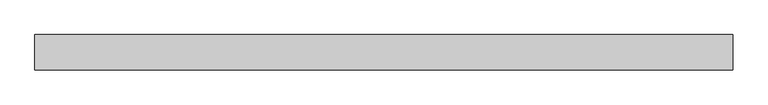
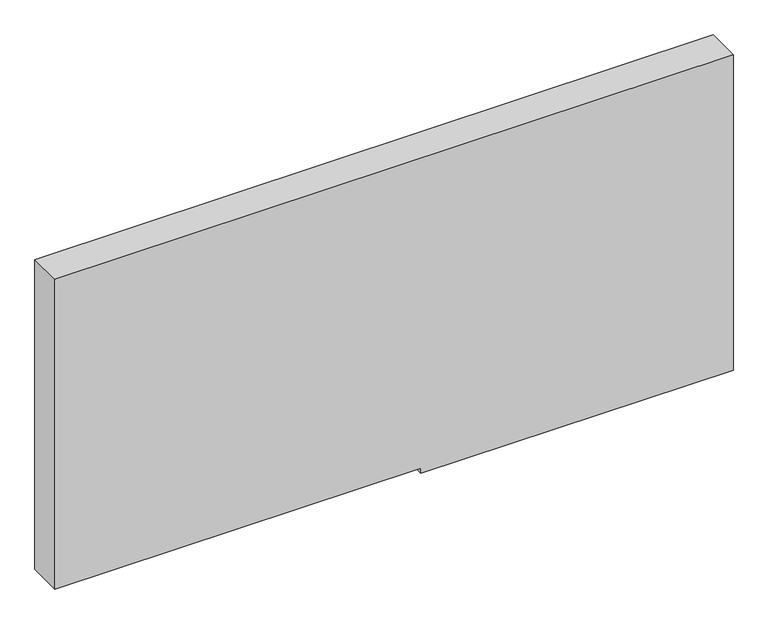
"""IFC4 building model written with IfcOpenShell, lengths in millimetres: plate geometry, Системная панель : Алюкобонд серый."""

import ifcopenshell
import ifcopenshell.guid

model = None  # the IFC model being written
_history = None  # IfcOwnerHistory: only IFC2X3 demands one
_inside = {}  # id of a spatial element -> (the spatial element, [elements in it])
_under = {}  # id of a project, library or spatial element -> (it, [spatial elements below it])
_declared = {}  # id of a project -> (the project, [libraries it declares])
_typed = {}  # id of a type object -> (the type object, [elements of that type])
_made_of = {}  # id of a material, layer set ... -> (it, [elements and type objects made of it])


def new_model(schema):
    """Start an empty IFC model of exactly this schema.

    Asked for "IFC4X3", IfcOpenShell would pick the latest addendum, in which some entities
    have other attributes; the version numbers below select the first issue.
    IFC2X3 requires an IfcOwnerHistory on every rooted entity: one is made here for all.
    """
    global model, _history
    if schema == "IFC4X3":
        model = ifcopenshell.file(schema_version=(4, 3, 0, 0))
    else:
        model = ifcopenshell.file(schema=schema)
    _inside.clear()
    _under.clear()
    _declared.clear()
    _typed.clear()
    _made_of.clear()
    _history = None
    if model.schema == "IFC2X3":
        org = make("IfcOrganization", Name="unknown")
        user = make(
            "IfcPersonAndOrganization",
            ThePerson=make("IfcPerson", FamilyName="unknown"),
            TheOrganization=org,
        )
        app = make(
            "IfcApplication",
            ApplicationDeveloper=org,
            Version="unknown",
            ApplicationFullName="unknown",
            ApplicationIdentifier="unknown",
        )
        _history = make(
            "IfcOwnerHistory",
            OwningUser=user,
            OwningApplication=app,
            ChangeAction="ADDED",
            CreationDate=0,
        )
    return model


def make(cls, **values):
    """One entity of the class cls with the attributes given. An attribute that is None is left unset."""
    return model.create_entity(
        cls, **{name: value for name, value in values.items() if value is not None}
    )


def rooted(cls, **values):
    """An entity with a GlobalId (a new one), such as an element, a storey or a relation."""
    return make(cls, GlobalId=ifcopenshell.guid.new(), OwnerHistory=_history, **values)


def si_unit(unit_type, name, prefix=None):
    """IfcSIUnit, for example si_unit("LENGTHUNIT", "METRE", prefix="MILLI")."""
    return make("IfcSIUnit", UnitType=unit_type, Prefix=prefix, Name=name)


def assignment(units):
    """IfcUnitAssignment: the units of a project."""
    return None if units is None else make("IfcUnitAssignment", Units=units)


def point(xyz):
    """IfcCartesianPoint."""
    return None if xyz is None else make("IfcCartesianPoint", Coordinates=xyz)


def direction(xyz):
    """IfcDirection."""
    return None if xyz is None else make("IfcDirection", DirectionRatios=xyz)


def frame(location, z_axis=None, x_axis=None):
    """IfcAxis2Placement3D, a coordinate frame: its origin and axes. An axis left out is left unset."""
    return make(
        "IfcAxis2Placement3D",
        Location=point(location),
        Axis=direction(z_axis),
        RefDirection=direction(x_axis),
    )


def origin():
    """The frame at (0, 0, 0) with its axes left unset."""
    return frame((0.0, 0.0, 0.0))


def place(relative_to, where):
    """IfcLocalPlacement: puts the frame where relative to a parent placement (None: the world)."""
    return make(
        "IfcLocalPlacement", PlacementRelTo=relative_to, RelativePlacement=where
    )


def context(
    kind, dimensions, precision=None, world=None, true_north=None, identifier=None
):
    """IfcGeometricRepresentationContext, for example the 3D "Model" context."""
    return make(
        "IfcGeometricRepresentationContext",
        ContextIdentifier=identifier,
        ContextType=kind,
        CoordinateSpaceDimension=dimensions,
        Precision=precision,
        WorldCoordinateSystem=world,
        TrueNorth=true_north,
    )


def project(units=None, contexts=None):
    """IfcProject with its units and contexts."""
    return rooted(
        "IfcProject",
        Name="project",
        RepresentationContexts=contexts,
        UnitsInContext=assignment(units),
    )


def spatial(cls, under=None, at=None, **own):
    """A site, building, storey or space (cls), placed at a placement, below another one or the project."""
    s = rooted(cls, ObjectPlacement=at, **own)
    if under is not None:
        _under.setdefault(under.id(), (under, []))[1].append(s)
    return s


def polyline(points):
    """IfcPolyline through the points."""
    return make("IfcPolyline", Points=[point(p) for p in points])


def outline(outer, holes=None, kind="AREA"):
    """IfcArbitraryClosedProfileDef: a profile drawn as a closed curve; with holes, ...WithVoids."""
    if holes is None:
        return make("IfcArbitraryClosedProfileDef", ProfileType=kind, OuterCurve=outer)
    return make(
        "IfcArbitraryProfileDefWithVoids",
        ProfileType=kind,
        OuterCurve=outer,
        InnerCurves=holes,
    )


def extrude(swept, where, along, depth):
    """IfcExtrudedAreaSolid: the profile swept, set in the frame where, extruded along a direction by depth."""
    return make(
        "IfcExtrudedAreaSolid",
        SweptArea=swept,
        Position=where,
        ExtrudedDirection=direction(along),
        Depth=depth,
    )


def shape(context_of_items, identifier, shape_type, items):
    """IfcShapeRepresentation: the items that make up one representation, for example the "Body"."""
    return make(
        "IfcShapeRepresentation",
        ContextOfItems=context_of_items,
        RepresentationIdentifier=identifier,
        RepresentationType=shape_type,
        Items=items,
    )


def source(mapping_origin, context_of_items, identifier, shape_type, items):
    """IfcRepresentationMap: a shape defined once, which mapped items show again and again."""
    return make(
        "IfcRepresentationMap",
        MappingOrigin=mapping_origin,
        MappedRepresentation=shape(context_of_items, identifier, shape_type, items),
    )


def transform(
    local_origin,
    x_axis=None,
    y_axis=None,
    z_axis=None,
    scale=None,
    scale2=None,
    scale3=None,
    uniform=True,
):
    """IfcCartesianTransformationOperator3D, or its non-uniform kind. x_axis, y_axis, z_axis: its Axis1, 2, 3."""
    if uniform:
        return make(
            "IfcCartesianTransformationOperator3D",
            Axis1=direction(x_axis),
            Axis2=direction(y_axis),
            LocalOrigin=point(local_origin),
            Scale=scale,
            Axis3=direction(z_axis),
        )
    return make(
        "IfcCartesianTransformationOperator3DnonUniform",
        Axis1=direction(x_axis),
        Axis2=direction(y_axis),
        LocalOrigin=point(local_origin),
        Scale=scale,
        Axis3=direction(z_axis),
        Scale2=scale2,
        Scale3=scale3,
    )


def mapped(mapping_source, mapping_target):
    """IfcMappedItem: shows the shape of a source again, moved by a transform."""
    return make(
        "IfcMappedItem", MappingSource=mapping_source, MappingTarget=mapping_target
    )


def made_of(thing, what):
    """Note that an element or type object is made of a material, layer set ...; save() writes the relation."""
    if what is not None:
        _made_of.setdefault(what.id(), (what, []))[1].append(thing)
    return thing


def element(
    cls,
    number,
    at=None,
    inside=None,
    cuts=None,
    type_object=None,
    material=None,
    context=None,
    identifier="Body",
    shape_type=None,
    held_by="IfcProductDefinitionShape",
    body=None,
    shapes=None,
    **own,
):
    """One element of the class cls, such as IfcWall. Its Tag is "e" and its number.

    at: its placement. inside: the storey or other place that contains it. cuts: it is an
    opening in that element (IfcRelVoidsElement). A single representation is given by context,
    identifier, shape_type and body (its items); several are given by shapes. held_by: the class
    of the entity that holds the representations. save() writes the other relations.
    """
    e = rooted(cls, Tag="e%d" % number, ObjectPlacement=at, **own)
    if body is not None:
        shapes = [shape(context, identifier, shape_type, body)]
    if shapes is not None:
        e.Representation = make(held_by, Representations=shapes)
    if inside is not None:
        _inside.setdefault(inside.id(), (inside, []))[1].append(e)
    if cuts is not None:
        rooted(
            "IfcRelVoidsElement", RelatingBuildingElement=cuts, RelatedOpeningElement=e
        )
    if type_object is not None:
        _typed.setdefault(type_object.id(), (type_object, []))[1].append(e)
    return made_of(e, material)


def aggregate(whole, parts):
    """IfcRelAggregates: a whole, such as a stair, and the parts it consists of."""
    return rooted("IfcRelAggregates", RelatingObject=whole, RelatedObjects=parts)


def save(model, path):
    """Write the relations noted so far, then the file.

    IfcRelAggregates (storeys below a building ...), IfcRelContainedInSpatialStructure (elements
    in a storey), IfcRelDefinesByType, IfcRelAssociatesMaterial and IfcRelDeclares: one each for
    every whole, place, type object, material and project.
    """
    for whole, parts in _under.values():
        aggregate(whole, parts)
    for where, things in _inside.values():
        rooted(
            "IfcRelContainedInSpatialStructure",
            RelatedElements=things,
            RelatingStructure=where,
        )
    for kind, things in _typed.values():
        rooted("IfcRelDefinesByType", RelatedObjects=things, RelatingType=kind)
    for what, things in _made_of.values():
        rooted("IfcRelAssociatesMaterial", RelatedObjects=things, RelatingMaterial=what)
    for by, libraries in _declared.values():
        rooted("IfcRelDeclares", RelatingContext=by, RelatedDefinitions=libraries)
    model.write(path)


def plate_83cdfb8c(model_context):
    return source(origin(), model_context, "Body", "SweptSolid", [
        extrude(outline(polyline([(0.0, 46.7314798), (0.0, 590.0), (580.0, 590.0), (580.0, -590.0), (10.0, -590.0), (10.0, 46.7314798), (0.0, 46.7314798)])), frame((0.0, -49.5, 0.0), z_axis=(0.0, 1.0, 0.0), x_axis=(0.0, 0.0, 1.0)), (0.0, 0.0, 1.0), 60.0),
    ])


if __name__ == "__main__":
    model = new_model("IFC4")
    model_context = context("Model", 3, world=origin())
    ifc_project = project(units=[si_unit("LENGTHUNIT", "METRE", prefix="MILLI")], contexts=[model_context])
    site = spatial("IfcSite", under=ifc_project)
    building = spatial("IfcBuilding", under=site)
    placement = place(None, origin())
    plate_shape = plate_83cdfb8c(model_context)
    element("IfcPlate", 1, ObjectType="Системная панель : Алюкобонд серый", at=placement, inside=building, context=model_context, shape_type="MappedRepresentation", body=[
        mapped(plate_shape, transform((0.0, 0.0, 0.0), x_axis=(1.0, 0.0, 0.0), y_axis=(0.0, 1.0, 0.0), z_axis=(0.0, 0.0, 1.0))),
    ])
    save(model, "model.ifc")
